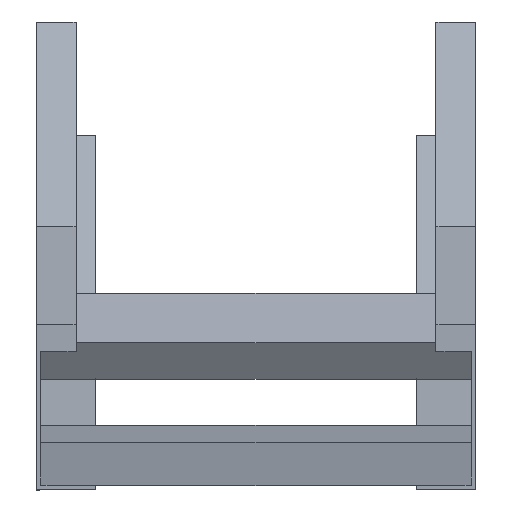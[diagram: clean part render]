
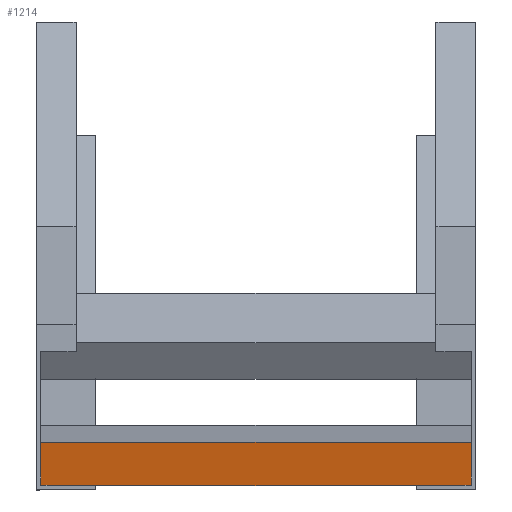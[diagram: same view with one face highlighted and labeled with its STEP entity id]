
A CAD part, top view. The second image highlights one B-rep face of the part: STEP entity #1214.
In plain terms, the highlighted planar face has unit normal (0, -0.195, 0.981) as drawn and (0, 0, 1) by its records, which use the part's own axes.
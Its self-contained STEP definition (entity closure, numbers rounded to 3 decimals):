
#55 = ORIENTED_EDGE ( 'NONE', *, *, #856, .T. ) ;
#58 = CARTESIAN_POINT ( 'NONE',  ( -98., 20., 20.25 ) ) ;
#123 = LINE ( 'NONE', #579, #628 ) ;
#137 = VERTEX_POINT ( 'NONE', #58 ) ;
#193 = VERTEX_POINT ( 'NONE', #1205 ) ;
#211 = DIRECTION ( 'NONE',  ( 0., 1., 0. ) ) ;
#254 = VECTOR ( 'NONE', #323, 1000. ) ;
#305 = VECTOR ( 'NONE', #1044, 1000. ) ;
#323 = DIRECTION ( 'NONE',  ( -1., 0., 0. ) ) ;
#333 = DIRECTION ( 'NONE',  ( 0., -1., 0. ) ) ;
#349 = AXIS2_PLACEMENT_3D ( 'NONE', #1131, #1363, #211 ) ;
#363 = ORIENTED_EDGE ( 'NONE', *, *, #1113, .F. ) ;
#495 = ORIENTED_EDGE ( 'NONE', *, *, #1207, .T. ) ;
#579 = CARTESIAN_POINT ( 'NONE',  ( 98., 20., 20.25 ) ) ;
#592 = DIRECTION ( 'NONE',  ( -1., 0., 0. ) ) ;
#628 = VECTOR ( 'NONE', #592, 1000. ) ;
#629 = EDGE_LOOP ( 'NONE', ( #495, #363, #879, #55 ) ) ;
#677 = LINE ( 'NONE', #1463, #254 ) ;
#684 = PLANE ( 'NONE',  #349 ) ;
#712 = LINE ( 'NONE', #1149, #305 ) ;
#764 = EDGE_CURVE ( 'NONE', #1215, #193, #712, .T. ) ;
#766 = CARTESIAN_POINT ( 'NONE',  ( -98., 0., 20.25 ) ) ;
#856 = EDGE_CURVE ( 'NONE', #1215, #137, #123, .T. ) ;
#879 = ORIENTED_EDGE ( 'NONE', *, *, #764, .F. ) ;
#916 = FACE_OUTER_BOUND ( 'NONE', #629, .T. ) ;
#1021 = LINE ( 'NONE', #1475, #1428 ) ;
#1044 = DIRECTION ( 'NONE',  ( 0., -1., 0. ) ) ;
#1070 = VERTEX_POINT ( 'NONE', #766 ) ;
#1113 = EDGE_CURVE ( 'NONE', #193, #1070, #677, .T. ) ;
#1131 = CARTESIAN_POINT ( 'NONE',  ( 98., 20., 20.25 ) ) ;
#1149 = CARTESIAN_POINT ( 'NONE',  ( 98., 20., 20.25 ) ) ;
#1205 = CARTESIAN_POINT ( 'NONE',  ( 98., 0., 20.25 ) ) ;
#1207 = EDGE_CURVE ( 'NONE', #137, #1070, #1021, .T. ) ;
#1214 = ADVANCED_FACE ( 'NONE', ( #916 ), #684, .F. ) ;
#1215 = VERTEX_POINT ( 'NONE', #1256 ) ;
#1256 = CARTESIAN_POINT ( 'NONE',  ( 98., 20., 20.25 ) ) ;
#1363 = DIRECTION ( 'NONE',  ( 0., 0., -1. ) ) ;
#1428 = VECTOR ( 'NONE', #333, 1000. ) ;
#1463 = CARTESIAN_POINT ( 'NONE',  ( 98., 0., 20.25 ) ) ;
#1475 = CARTESIAN_POINT ( 'NONE',  ( -98., 20., 20.25 ) ) ;
